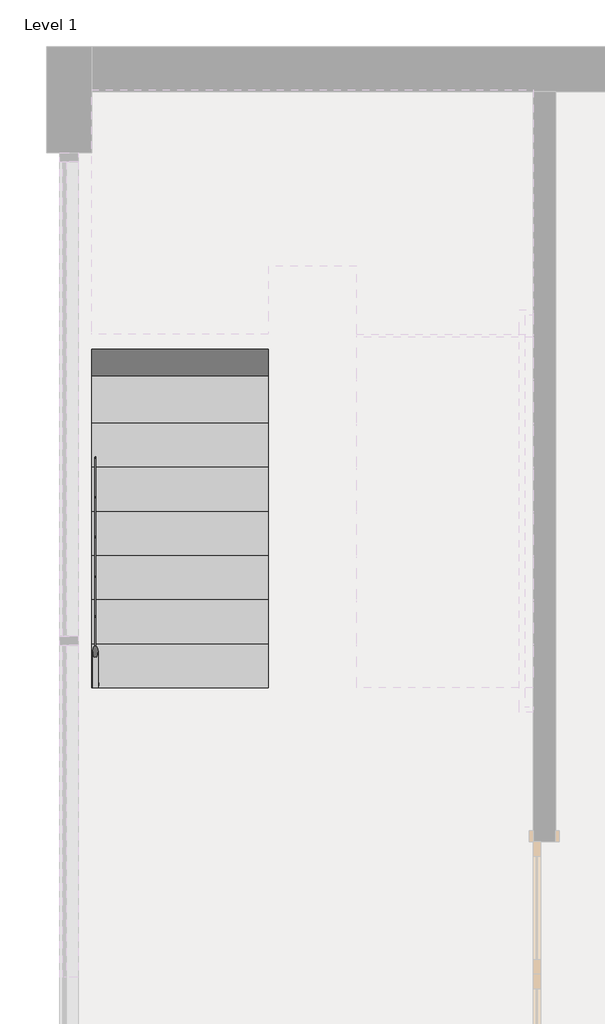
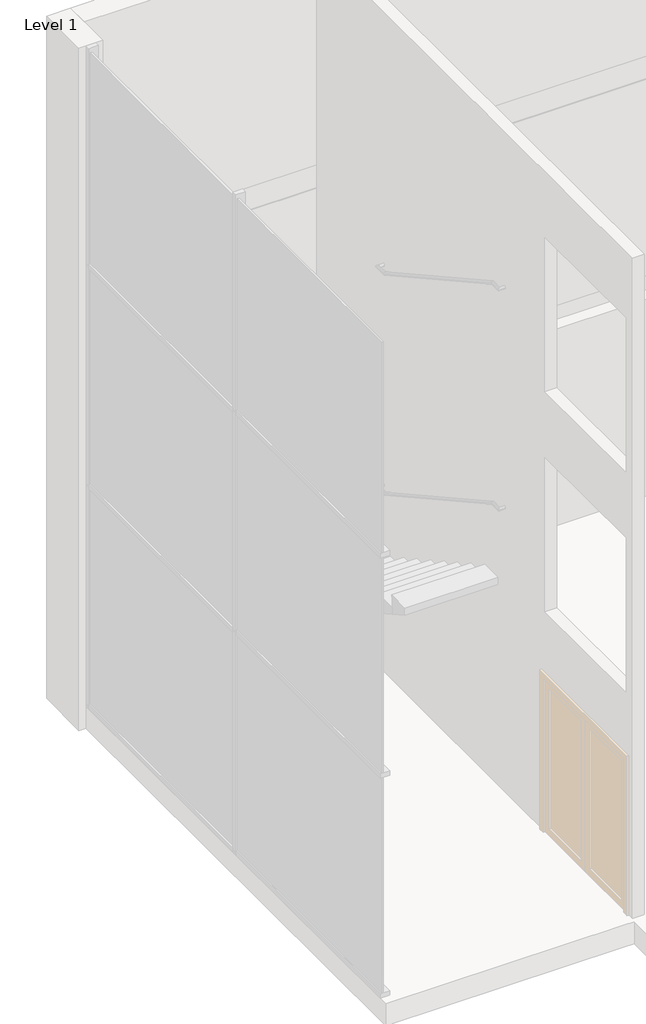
# One storey, part 4 of 7: 1 railing, 1 stair flight.
"""IFC4 building model written with IfcOpenShell, lengths in millimetres."""

from ifc_helpers import new_model, si_unit, point, frame, frame_2d, origin, place, context, project, spatial, circle_curve, ellipse_curve, trimmed, segment, composite_curve, outline, extrude, faceted_brep, element, save
from ifc_brep_helpers import plane_surface, cylinder_surface, advanced_brep

model = new_model("IFC4")

# Units and contexts
model_context = context("Model", 3, world=origin())
ifc_project = project(units=[si_unit("LENGTHUNIT", "METRE", prefix="MILLI")], contexts=[model_context])

# Site, building, storey
site = spatial("IfcSite", under=ifc_project)
building = spatial("IfcBuilding", under=site)
storey = spatial("IfcBuildingStorey", under=building, Name="Level 1", Elevation=0.0)

# Railing
placement = place(None, origin())
element("IfcRailing", 1, ObjectType="Handrail -Wire", at=placement, inside=storey, context=model_context, shape_type="SolidModel", body=[
    advanced_brep(
    [(-21332.467382, 11483.2233604, 4109.9409165), (-21370.567382, 11483.2233604, 4109.9409165), (-21332.467382, 13926.5597113, 5467.3500003), (-21370.567382, 13926.5597113, 5467.3500003), (-21332.467382, 15610.7233604, 5467.3500003), (-21370.567382, 15610.7233604, 5467.3500003)],
    [
        (0, 1, ellipse_curve(frame((-21351.517382, 11483.2233604, 4109.9409165), z_axis=(0.0, -1.0, 0.0), x_axis=(0.0, 0.0, -1.0)), 21.7924171, 19.05)),
        (1, 0, ellipse_curve(frame((-21351.517382, 11483.2233604, 4109.9409165), z_axis=(0.0, -1.0, 0.0), x_axis=(0.0, 0.0, -1.0)), 21.7924171, 19.05)),
        (0, 2),
        (2, 3, ellipse_curve(frame((-21351.517382, 13926.5597113, 5467.3500003), z_axis=(0.0, -0.9680282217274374, -0.25084130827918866), x_axis=(0.0, 0.2508413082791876, -0.9680282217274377)), 19.6791783, 19.05)),
        (3, 1),
        (3, 2, ellipse_curve(frame((-21351.517382, 13926.5597113, 5467.3500003), z_axis=(0.0, -0.9680282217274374, -0.25084130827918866), x_axis=(0.0, 0.2508413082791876, -0.9680282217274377)), 19.6791783, 19.05)),
        (4, 5, circle_curve(frame((-21351.517382, 15610.7233604, 5467.3500003), z_axis=(0.0, 1.0, 0.0), x_axis=(-1.0, 0.0, 0.0)), 19.05)),
        (5, 4, circle_curve(frame((-21351.517382, 15610.7233604, 5467.3500003), z_axis=(0.0, 1.0, 0.0), x_axis=(-1.0, 0.0, 0.0)), 19.05)),
        (2, 4),
        (5, 3),
    ],
    [
        plane_surface(frame((-21351.517382, 11483.2233604, 4131.7333336), z_axis=(0.0, -1.0, 0.0), x_axis=(0.0, 0.0, 1.0))),
        cylinder_surface(frame((-21351.517382, 11492.4748583, 4115.0806375), z_axis=(0.0, -0.8741572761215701, -0.485642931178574), x_axis=(-1.0, 0.0, 0.0)), 19.05),
        plane_surface(frame((-21351.517382, 15610.7233604, 5486.4000003), z_axis=(0.0, 1.0, 0.0), x_axis=(0.0, 0.0, 1.0))),
        cylinder_surface(frame((-21351.517382, 13921.6233604, 5467.3500003), z_axis=(0.0, -1.0, 0.0), x_axis=(-1.0, 0.0, 0.0)), 19.05),
    ],
    [
        (0, [[1, 2]]),
        (1, [[-1, 3, 4, 5]]),
        (1, [[-2, -5, 6, -3]]),
        (2, [[7, 8]]),
        (3, [[-4, 9, -8, 10]]),
        (3, [[-6, -10, -7, -9]]),
    ],
),
    advanced_brep(
    [(-21348.342382, 11483.2233604, 3975.7012641), (-21354.692382, 11483.2233604, 3975.7012641), (-21348.342382, 13921.6233604, 5330.3679308), (-21354.692382, 13921.6233604, 5330.3679308)],
    [
        (0, 1, ellipse_curve(frame((-21351.517382, 11483.2233604, 3975.7012641), z_axis=(0.0, -1.0, 0.0), x_axis=(0.0, 0.0, -1.0)), 3.6320695, 3.175)),
        (1, 0, ellipse_curve(frame((-21351.517382, 11483.2233604, 3975.7012641), z_axis=(0.0, -1.0, 0.0), x_axis=(0.0, 0.0, -1.0)), 3.6320695, 3.175)),
        (2, 3, ellipse_curve(frame((-21351.517382, 13921.6233604, 5330.3679308), z_axis=(0.0, 1.0, 0.0), x_axis=(0.0, 0.0, -1.0)), 3.6320695, 3.175)),
        (3, 2, ellipse_curve(frame((-21351.517382, 13921.6233604, 5330.3679308), z_axis=(0.0, 1.0, 0.0), x_axis=(0.0, 0.0, -1.0)), 3.6320695, 3.175)),
        (0, 2),
        (3, 1),
    ],
    [
        plane_surface(frame((-21351.517382, 11483.2233604, 3979.3333336), z_axis=(0.0, -1.0, 0.0), x_axis=(0.0, 0.0, 1.0))),
        plane_surface(frame((-21351.517382, 13921.6233604, 5334.0000003), z_axis=(0.0, 1.0, 0.0), x_axis=(0.0, 0.0, 1.0))),
        cylinder_surface(frame((-21351.517382, 11484.7652768, 3976.5578843), z_axis=(0.0, -0.8741572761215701, -0.485642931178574), x_axis=(-1.0, 0.0, 0.0)), 3.175),
    ],
    [
        (0, [[1, 2]]),
        (1, [[3, 4]]),
        (2, [[-1, 5, -4, 6]]),
        (2, [[-2, -6, -3, -5]]),
    ],
),
    advanced_brep(
    [(-21348.342382, 13921.6233604, 5330.8250003), (-21354.692382, 13921.6233604, 5330.8250003), (-21348.342382, 15610.7233604, 5330.8250003), (-21354.692382, 15610.7233604, 5330.8250003)],
    [
        (0, 1, circle_curve(frame((-21351.517382, 13921.6233604, 5330.8250003), z_axis=(0.0, -1.0, 0.0), x_axis=(-1.0, 0.0, 0.0)), 3.175)),
        (1, 0, circle_curve(frame((-21351.517382, 13921.6233604, 5330.8250003), z_axis=(0.0, -1.0, 0.0), x_axis=(-1.0, 0.0, 0.0)), 3.175)),
        (2, 3, circle_curve(frame((-21351.517382, 15610.7233604, 5330.8250003), z_axis=(0.0, 1.0, 0.0), x_axis=(-1.0, 0.0, 0.0)), 3.175)),
        (3, 2, circle_curve(frame((-21351.517382, 15610.7233604, 5330.8250003), z_axis=(0.0, 1.0, 0.0), x_axis=(-1.0, 0.0, 0.0)), 3.175)),
        (0, 2),
        (3, 1),
    ],
    [
        plane_surface(frame((-21351.517382, 13921.6233604, 5334.0000003), z_axis=(0.0, -1.0, 0.0), x_axis=(0.0, 0.0, 1.0))),
        plane_surface(frame((-21351.517382, 15610.7233604, 5334.0000003), z_axis=(0.0, 1.0, 0.0), x_axis=(0.0, 0.0, 1.0))),
        cylinder_surface(frame((-21351.517382, 13921.6233604, 5330.8250003), z_axis=(0.0, -1.0, 0.0), x_axis=(-1.0, 0.0, 0.0)), 3.175),
    ],
    [
        (0, [[1, 2]]),
        (1, [[3, 4]]),
        (2, [[-1, 5, -4, 6]]),
        (2, [[-2, -6, -3, -5]]),
    ],
),
    advanced_brep(
    [(-21348.342382, 11483.2233604, 3823.3012641), (-21354.692382, 11483.2233604, 3823.3012641), (-21348.342382, 13921.6233604, 5177.9679308), (-21354.692382, 13921.6233604, 5177.9679308)],
    [
        (0, 1, ellipse_curve(frame((-21351.517382, 11483.2233604, 3823.3012641), z_axis=(0.0, -1.0, 0.0), x_axis=(0.0, 0.0, -1.0)), 3.6320695, 3.175)),
        (1, 0, ellipse_curve(frame((-21351.517382, 11483.2233604, 3823.3012641), z_axis=(0.0, -1.0, 0.0), x_axis=(0.0, 0.0, -1.0)), 3.6320695, 3.175)),
        (2, 3, ellipse_curve(frame((-21351.517382, 13921.6233604, 5177.9679308), z_axis=(0.0, 1.0, 0.0), x_axis=(0.0, 0.0, -1.0)), 3.6320695, 3.175)),
        (3, 2, ellipse_curve(frame((-21351.517382, 13921.6233604, 5177.9679308), z_axis=(0.0, 1.0, 0.0), x_axis=(0.0, 0.0, -1.0)), 3.6320695, 3.175)),
        (0, 2),
        (3, 1),
    ],
    [
        plane_surface(frame((-21351.517382, 11483.2233604, 3826.9333336), z_axis=(0.0, -1.0, 0.0), x_axis=(0.0, 0.0, 1.0))),
        plane_surface(frame((-21351.517382, 13921.6233604, 5181.6000003), z_axis=(0.0, 1.0, 0.0), x_axis=(0.0, 0.0, 1.0))),
        cylinder_surface(frame((-21351.517382, 11484.7652768, 3824.1578843), z_axis=(0.0, -0.8741572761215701, -0.485642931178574), x_axis=(-1.0, 0.0, 0.0)), 3.175),
    ],
    [
        (0, [[1, 2]]),
        (1, [[3, 4]]),
        (2, [[-1, 5, -4, 6]]),
        (2, [[-2, -6, -3, -5]]),
    ],
),
    advanced_brep(
    [(-21348.342382, 13921.6233604, 5178.4250003), (-21354.692382, 13921.6233604, 5178.4250003), (-21348.342382, 15610.7233604, 5178.4250003), (-21354.692382, 15610.7233604, 5178.4250003)],
    [
        (0, 1, circle_curve(frame((-21351.517382, 13921.6233604, 5178.4250003), z_axis=(0.0, -1.0, 0.0), x_axis=(-1.0, 0.0, 0.0)), 3.175)),
        (1, 0, circle_curve(frame((-21351.517382, 13921.6233604, 5178.4250003), z_axis=(0.0, -1.0, 0.0), x_axis=(-1.0, 0.0, 0.0)), 3.175)),
        (2, 3, circle_curve(frame((-21351.517382, 15610.7233604, 5178.4250003), z_axis=(0.0, 1.0, 0.0), x_axis=(-1.0, 0.0, 0.0)), 3.175)),
        (3, 2, circle_curve(frame((-21351.517382, 15610.7233604, 5178.4250003), z_axis=(0.0, 1.0, 0.0), x_axis=(-1.0, 0.0, 0.0)), 3.175)),
        (0, 2),
        (3, 1),
    ],
    [
        plane_surface(frame((-21351.517382, 13921.6233604, 5181.6000003), z_axis=(0.0, -1.0, 0.0), x_axis=(0.0, 0.0, 1.0))),
        plane_surface(frame((-21351.517382, 15610.7233604, 5181.6000003), z_axis=(0.0, 1.0, 0.0), x_axis=(0.0, 0.0, 1.0))),
        cylinder_surface(frame((-21351.517382, 13921.6233604, 5178.4250003), z_axis=(0.0, -1.0, 0.0), x_axis=(-1.0, 0.0, 0.0)), 3.175),
    ],
    [
        (0, [[1, 2]]),
        (1, [[3, 4]]),
        (2, [[-1, 5, -4, 6]]),
        (2, [[-2, -6, -3, -5]]),
    ],
),
    advanced_brep(
    [(-21348.342382, 11483.2233604, 3670.9012641), (-21354.692382, 11483.2233604, 3670.9012641), (-21348.342382, 13921.6233604, 5025.5679308), (-21354.692382, 13921.6233604, 5025.5679308)],
    [
        (0, 1, ellipse_curve(frame((-21351.517382, 11483.2233604, 3670.9012641), z_axis=(0.0, -1.0, 0.0), x_axis=(0.0, 0.0, -1.0)), 3.6320695, 3.175)),
        (1, 0, ellipse_curve(frame((-21351.517382, 11483.2233604, 3670.9012641), z_axis=(0.0, -1.0, 0.0), x_axis=(0.0, 0.0, -1.0)), 3.6320695, 3.175)),
        (2, 3, ellipse_curve(frame((-21351.517382, 13921.6233604, 5025.5679308), z_axis=(0.0, 1.0, 0.0), x_axis=(0.0, 0.0, -1.0)), 3.6320695, 3.175)),
        (3, 2, ellipse_curve(frame((-21351.517382, 13921.6233604, 5025.5679308), z_axis=(0.0, 1.0, 0.0), x_axis=(0.0, 0.0, -1.0)), 3.6320695, 3.175)),
        (0, 2),
        (3, 1),
    ],
    [
        plane_surface(frame((-21351.517382, 11483.2233604, 3674.5333336), z_axis=(0.0, -1.0, 0.0), x_axis=(0.0, 0.0, 1.0))),
        plane_surface(frame((-21351.517382, 13921.6233604, 5029.2000003), z_axis=(0.0, 1.0, 0.0), x_axis=(0.0, 0.0, 1.0))),
        cylinder_surface(frame((-21351.517382, 11484.7652768, 3671.7578843), z_axis=(0.0, -0.8741572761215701, -0.485642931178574), x_axis=(-1.0, 0.0, 0.0)), 3.175),
    ],
    [
        (0, [[1, 2]]),
        (1, [[3, 4]]),
        (2, [[-1, 5, -4, 6]]),
        (2, [[-2, -6, -3, -5]]),
    ],
),
    advanced_brep(
    [(-21348.342382, 13921.6233604, 5026.0250003), (-21354.692382, 13921.6233604, 5026.0250003), (-21348.342382, 15610.7233604, 5026.0250003), (-21354.692382, 15610.7233604, 5026.0250003)],
    [
        (0, 1, circle_curve(frame((-21351.517382, 13921.6233604, 5026.0250003), z_axis=(0.0, -1.0, 0.0), x_axis=(-1.0, 0.0, 0.0)), 3.175)),
        (1, 0, circle_curve(frame((-21351.517382, 13921.6233604, 5026.0250003), z_axis=(0.0, -1.0, 0.0), x_axis=(-1.0, 0.0, 0.0)), 3.175)),
        (2, 3, circle_curve(frame((-21351.517382, 15610.7233604, 5026.0250003), z_axis=(0.0, 1.0, 0.0), x_axis=(-1.0, 0.0, 0.0)), 3.175)),
        (3, 2, circle_curve(frame((-21351.517382, 15610.7233604, 5026.0250003), z_axis=(0.0, 1.0, 0.0), x_axis=(-1.0, 0.0, 0.0)), 3.175)),
        (0, 2),
        (3, 1),
    ],
    [
        plane_surface(frame((-21351.517382, 13921.6233604, 5029.2000003), z_axis=(0.0, -1.0, 0.0), x_axis=(0.0, 0.0, 1.0))),
        plane_surface(frame((-21351.517382, 15610.7233604, 5029.2000003), z_axis=(0.0, 1.0, 0.0), x_axis=(0.0, 0.0, 1.0))),
        cylinder_surface(frame((-21351.517382, 13921.6233604, 5026.0250003), z_axis=(0.0, -1.0, 0.0), x_axis=(-1.0, 0.0, 0.0)), 3.175),
    ],
    [
        (0, [[1, 2]]),
        (1, [[3, 4]]),
        (2, [[-1, 5, -4, 6]]),
        (2, [[-2, -6, -3, -5]]),
    ],
),
    advanced_brep(
    [(-21348.342382, 11483.2233604, 3518.5012641), (-21354.692382, 11483.2233604, 3518.5012641), (-21348.342382, 13921.6233604, 4873.1679308), (-21354.692382, 13921.6233604, 4873.1679308)],
    [
        (0, 1, ellipse_curve(frame((-21351.517382, 11483.2233604, 3518.5012641), z_axis=(0.0, -1.0, 0.0), x_axis=(0.0, 0.0, -1.0)), 3.6320695, 3.175)),
        (1, 0, ellipse_curve(frame((-21351.517382, 11483.2233604, 3518.5012641), z_axis=(0.0, -1.0, 0.0), x_axis=(0.0, 0.0, -1.0)), 3.6320695, 3.175)),
        (2, 3, ellipse_curve(frame((-21351.517382, 13921.6233604, 4873.1679308), z_axis=(0.0, 1.0, 0.0), x_axis=(0.0, 0.0, -1.0)), 3.6320695, 3.175)),
        (3, 2, ellipse_curve(frame((-21351.517382, 13921.6233604, 4873.1679308), z_axis=(0.0, 1.0, 0.0), x_axis=(0.0, 0.0, -1.0)), 3.6320695, 3.175)),
        (0, 2),
        (3, 1),
    ],
    [
        plane_surface(frame((-21351.517382, 11483.2233604, 3522.1333336), z_axis=(0.0, -1.0, 0.0), x_axis=(0.0, 0.0, 1.0))),
        plane_surface(frame((-21351.517382, 13921.6233604, 4876.8000003), z_axis=(0.0, 1.0, 0.0), x_axis=(0.0, 0.0, 1.0))),
        cylinder_surface(frame((-21351.517382, 11484.7652768, 3519.3578843), z_axis=(0.0, -0.8741572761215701, -0.485642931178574), x_axis=(-1.0, 0.0, 0.0)), 3.175),
    ],
    [
        (0, [[1, 2]]),
        (1, [[3, 4]]),
        (2, [[-1, 5, -4, 6]]),
        (2, [[-2, -6, -3, -5]]),
    ],
),
    advanced_brep(
    [(-21348.342382, 13921.6233604, 4873.6250003), (-21354.692382, 13921.6233604, 4873.6250003), (-21348.342382, 15610.7233604, 4873.6250003), (-21354.692382, 15610.7233604, 4873.6250003)],
    [
        (0, 1, circle_curve(frame((-21351.517382, 13921.6233604, 4873.6250003), z_axis=(0.0, -1.0, 0.0), x_axis=(-1.0, 0.0, 0.0)), 3.175)),
        (1, 0, circle_curve(frame((-21351.517382, 13921.6233604, 4873.6250003), z_axis=(0.0, -1.0, 0.0), x_axis=(-1.0, 0.0, 0.0)), 3.175)),
        (2, 3, circle_curve(frame((-21351.517382, 15610.7233604, 4873.6250003), z_axis=(0.0, 1.0, 0.0), x_axis=(-1.0, 0.0, 0.0)), 3.175)),
        (3, 2, circle_curve(frame((-21351.517382, 15610.7233604, 4873.6250003), z_axis=(0.0, 1.0, 0.0), x_axis=(-1.0, 0.0, 0.0)), 3.175)),
        (0, 2),
        (3, 1),
    ],
    [
        plane_surface(frame((-21351.517382, 13921.6233604, 4876.8000003), z_axis=(0.0, -1.0, 0.0), x_axis=(0.0, 0.0, 1.0))),
        plane_surface(frame((-21351.517382, 15610.7233604, 4876.8000003), z_axis=(0.0, 1.0, 0.0), x_axis=(0.0, 0.0, 1.0))),
        cylinder_surface(frame((-21351.517382, 13921.6233604, 4873.6250003), z_axis=(0.0, -1.0, 0.0), x_axis=(-1.0, 0.0, 0.0)), 3.175),
    ],
    [
        (0, [[1, 2]]),
        (1, [[3, 4]]),
        (2, [[-1, 5, -4, 6]]),
        (2, [[-2, -6, -3, -5]]),
    ],
),
    advanced_brep(
    [(-21348.342382, 11483.2233604, 3366.1012641), (-21354.692382, 11483.2233604, 3366.1012641), (-21348.342382, 13921.6233604, 4720.7679308), (-21354.692382, 13921.6233604, 4720.7679308)],
    [
        (0, 1, ellipse_curve(frame((-21351.517382, 11483.2233604, 3366.1012641), z_axis=(0.0, -1.0, 0.0), x_axis=(0.0, 0.0, -1.0)), 3.6320695, 3.175)),
        (1, 0, ellipse_curve(frame((-21351.517382, 11483.2233604, 3366.1012641), z_axis=(0.0, -1.0, 0.0), x_axis=(0.0, 0.0, -1.0)), 3.6320695, 3.175)),
        (2, 3, ellipse_curve(frame((-21351.517382, 13921.6233604, 4720.7679308), z_axis=(0.0, 1.0, 0.0), x_axis=(0.0, 0.0, -1.0)), 3.6320695, 3.175)),
        (3, 2, ellipse_curve(frame((-21351.517382, 13921.6233604, 4720.7679308), z_axis=(0.0, 1.0, 0.0), x_axis=(0.0, 0.0, -1.0)), 3.6320695, 3.175)),
        (0, 2),
        (3, 1),
    ],
    [
        plane_surface(frame((-21351.517382, 11483.2233604, 3369.7333336), z_axis=(0.0, -1.0, 0.0), x_axis=(0.0, 0.0, 1.0))),
        plane_surface(frame((-21351.517382, 13921.6233604, 4724.4000003), z_axis=(0.0, 1.0, 0.0), x_axis=(0.0, 0.0, 1.0))),
        cylinder_surface(frame((-21351.517382, 11484.7652768, 3366.9578843), z_axis=(0.0, -0.8741572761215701, -0.485642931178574), x_axis=(-1.0, 0.0, 0.0)), 3.175),
    ],
    [
        (0, [[1, 2]]),
        (1, [[3, 4]]),
        (2, [[-1, 5, -4, 6]]),
        (2, [[-2, -6, -3, -5]]),
    ],
),
    advanced_brep(
    [(-21348.342382, 13921.6233604, 4721.2250003), (-21354.692382, 13921.6233604, 4721.2250003), (-21348.342382, 15610.7233604, 4721.2250003), (-21354.692382, 15610.7233604, 4721.2250003)],
    [
        (0, 1, circle_curve(frame((-21351.517382, 13921.6233604, 4721.2250003), z_axis=(0.0, -1.0, 0.0), x_axis=(-1.0, 0.0, 0.0)), 3.175)),
        (1, 0, circle_curve(frame((-21351.517382, 13921.6233604, 4721.2250003), z_axis=(0.0, -1.0, 0.0), x_axis=(-1.0, 0.0, 0.0)), 3.175)),
        (2, 3, circle_curve(frame((-21351.517382, 15610.7233604, 4721.2250003), z_axis=(0.0, 1.0, 0.0), x_axis=(-1.0, 0.0, 0.0)), 3.175)),
        (3, 2, circle_curve(frame((-21351.517382, 15610.7233604, 4721.2250003), z_axis=(0.0, 1.0, 0.0), x_axis=(-1.0, 0.0, 0.0)), 3.175)),
        (0, 2),
        (3, 1),
    ],
    [
        plane_surface(frame((-21351.517382, 13921.6233604, 4724.4000003), z_axis=(0.0, -1.0, 0.0), x_axis=(0.0, 0.0, 1.0))),
        plane_surface(frame((-21351.517382, 15610.7233604, 4724.4000003), z_axis=(0.0, 1.0, 0.0), x_axis=(0.0, 0.0, 1.0))),
        cylinder_surface(frame((-21351.517382, 13921.6233604, 4721.2250003), z_axis=(0.0, -1.0, 0.0), x_axis=(-1.0, 0.0, 0.0)), 3.175),
    ],
    [
        (0, [[1, 2]]),
        (1, [[3, 4]]),
        (2, [[-1, 5, -4, 6]]),
        (2, [[-2, -6, -3, -5]]),
    ],
),
    advanced_brep(
    [(-21376.917382, 13921.6233604, 5442.815166), (-21326.117382, 13921.6233604, 5442.815166), (-21326.117382, 13921.6233604, 4572.0000003), (-21376.917382, 13921.6233604, 4572.0000003)],
    [
        (0, 1, ellipse_curve(frame((-21351.517382, 13921.6233604, 5442.815166), z_axis=(0.0, 0.4856429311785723, -0.874157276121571), x_axis=(0.0, 0.874157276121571, 0.4856429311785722)), 29.0565562, 25.4)),
        (1, 2),
        (2, 3, circle_curve(frame((-21351.517382, 13921.6233604, 4572.0000003), z_axis=(0.0, 0.0, 1.0), x_axis=(1.0, 0.0, 0.0)), 25.4)),
        (3, 0),
        (3, 2, circle_curve(frame((-21351.517382, 13921.6233604, 4572.0000003), z_axis=(0.0, 0.0, 1.0), x_axis=(1.0, 0.0, 0.0)), 25.4)),
        (1, 0, ellipse_curve(frame((-21351.517382, 13921.6233604, 5442.815166), z_axis=(0.0, 0.4856429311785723, -0.874157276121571), x_axis=(0.0, 0.874157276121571, 0.4856429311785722)), 29.0565562, 25.4)),
    ],
    [
        cylinder_surface(frame((-21351.517382, 13921.6233604, 4343.4000003), z_axis=(0.0, 0.0, 1.0), x_axis=(1.0, 0.0, 0.0)), 25.4),
        plane_surface(frame((-21300.717382, 13972.4233604, 5471.0373883), z_axis=(0.0, -0.4856429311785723, 0.874157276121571), x_axis=(-1.0, 0.0, 0.0))),
        plane_surface(frame((-21300.717382, 13870.8233604, 4572.0000003), z_axis=(0.0, 0.0, -1.0), x_axis=(-1.0, 0.0, 0.0))),
    ],
    [
        (0, [[1, 2, 3, 4]]),
        (0, [[5, -2, 6, -4]]),
        (1, [[-6, -1]]),
        (2, [[-5, -3]]),
    ],
),
    extrude(outline(composite_curve([segment(trimmed(circle_curve(frame_2d((-21351.517382, 15585.3233604)), 25.4), [point((-21326.117382, 15585.3233604))], [point((-21376.917382, 15585.3233604))], False, "CARTESIAN"), True, "CONTINUOUS"), segment(trimmed(circle_curve(frame_2d((-21351.517382, 15585.3233604)), 25.4), [point((-21376.917382, 15585.3233604))], [point((-21326.117382, 15585.3233604))], False, "CARTESIAN"), True, "CONTINUOUS")], self_intersect=False)), frame((0.0, 0.0, 4572.0000003), z_axis=(0.0, 0.0, 1.0), x_axis=(1.0, 0.0, 0.0)), (0.0, 0.0, 1.0), 876.3),
    advanced_brep(
    [(-21376.917382, 11508.6233604, 4102.2596105), (-21326.117382, 11508.6233604, 4102.2596105), (-21326.117382, 11508.6233604, 3217.3333336), (-21376.917382, 11508.6233604, 3217.3333336)],
    [
        (0, 1, ellipse_curve(frame((-21351.517382, 11508.6233604, 4102.2596105), z_axis=(0.0, 0.4856429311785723, -0.874157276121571), x_axis=(0.0, 0.874157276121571, 0.4856429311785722)), 29.0565562, 25.4)),
        (1, 2),
        (2, 3, circle_curve(frame((-21351.517382, 11508.6233604, 3217.3333336), z_axis=(0.0, 0.0, 1.0), x_axis=(1.0, 0.0, 0.0)), 25.4)),
        (3, 0),
        (3, 2, circle_curve(frame((-21351.517382, 11508.6233604, 3217.3333336), z_axis=(0.0, 0.0, 1.0), x_axis=(1.0, 0.0, 0.0)), 25.4)),
        (1, 0, ellipse_curve(frame((-21351.517382, 11508.6233604, 4102.2596105), z_axis=(0.0, 0.4856429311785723, -0.874157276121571), x_axis=(0.0, 0.874157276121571, 0.4856429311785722)), 29.0565562, 25.4)),
    ],
    [
        cylinder_surface(frame((-21351.517382, 11508.6233604, 2988.7333336), z_axis=(0.0, 0.0, 1.0), x_axis=(1.0, 0.0, 0.0)), 25.4),
        plane_surface(frame((-21300.717382, 11559.4233604, 4130.4818327), z_axis=(0.0, -0.4856429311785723, 0.874157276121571), x_axis=(-1.0, 0.0, 0.0))),
        plane_surface(frame((-21300.717382, 11457.8233604, 3217.3333336), z_axis=(0.0, 0.0, -1.0), x_axis=(-1.0, 0.0, 0.0))),
    ],
    [
        (0, [[1, 2, 3, 4]]),
        (0, [[5, -2, 6, -4]]),
        (1, [[-6, -1]]),
        (2, [[-5, -3]]),
    ],
),
    advanced_brep(
    [(-21332.467382, 11483.2233604, 1061.9409162), (-21370.567382, 11483.2233604, 1061.9409162), (-21332.467382, 13926.5597113, 2419.35), (-21370.567382, 13926.5597113, 2419.35), (-21332.467382, 15610.7233604, 2419.35), (-21370.567382, 15610.7233604, 2419.35)],
    [
        (0, 1, ellipse_curve(frame((-21351.517382, 11483.2233604, 1061.9409162), z_axis=(0.0, -1.0, 0.0), x_axis=(0.0, 0.0, -1.0)), 21.7924171, 19.05)),
        (1, 0, ellipse_curve(frame((-21351.517382, 11483.2233604, 1061.9409162), z_axis=(0.0, -1.0, 0.0), x_axis=(0.0, 0.0, -1.0)), 21.7924171, 19.05)),
        (0, 2),
        (2, 3, ellipse_curve(frame((-21351.517382, 13926.5597113, 2419.35), z_axis=(0.0, -0.9680282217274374, -0.25084130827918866), x_axis=(0.0, 0.2508413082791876, -0.9680282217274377)), 19.6791783, 19.05)),
        (3, 1),
        (3, 2, ellipse_curve(frame((-21351.517382, 13926.5597113, 2419.35), z_axis=(0.0, -0.9680282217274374, -0.25084130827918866), x_axis=(0.0, 0.2508413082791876, -0.9680282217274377)), 19.6791783, 19.05)),
        (4, 5, circle_curve(frame((-21351.517382, 15610.7233604, 2419.35), z_axis=(0.0, 1.0, 0.0), x_axis=(-1.0, 0.0, 0.0)), 19.05)),
        (5, 4, circle_curve(frame((-21351.517382, 15610.7233604, 2419.35), z_axis=(0.0, 1.0, 0.0), x_axis=(-1.0, 0.0, 0.0)), 19.05)),
        (2, 4),
        (5, 3),
    ],
    [
        plane_surface(frame((-21351.517382, 11483.2233604, 1083.7333333), z_axis=(0.0, -1.0, 0.0), x_axis=(0.0, 0.0, 1.0))),
        cylinder_surface(frame((-21351.517382, 11492.4748583, 1067.0806372), z_axis=(0.0, -0.8741572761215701, -0.485642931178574), x_axis=(-1.0, 0.0, 0.0)), 19.05),
        plane_surface(frame((-21351.517382, 15610.7233604, 2438.4), z_axis=(0.0, 1.0, 0.0), x_axis=(0.0, 0.0, 1.0))),
        cylinder_surface(frame((-21351.517382, 13921.6233604, 2419.35), z_axis=(0.0, -1.0, 0.0), x_axis=(-1.0, 0.0, 0.0)), 19.05),
    ],
    [
        (0, [[1, 2]]),
        (1, [[-1, 3, 4, 5]]),
        (1, [[-2, -5, 6, -3]]),
        (2, [[7, 8]]),
        (3, [[-4, 9, -8, 10]]),
        (3, [[-6, -10, -7, -9]]),
    ],
),
    advanced_brep(
    [(-21348.342382, 11483.2233604, 927.7012638), (-21354.692382, 11483.2233604, 927.7012638), (-21348.342382, 13921.6233604, 2282.3679305), (-21354.692382, 13921.6233604, 2282.3679305)],
    [
        (0, 1, ellipse_curve(frame((-21351.517382, 11483.2233604, 927.7012638), z_axis=(0.0, -1.0, 0.0), x_axis=(0.0, 0.0, -1.0)), 3.6320695, 3.175)),
        (1, 0, ellipse_curve(frame((-21351.517382, 11483.2233604, 927.7012638), z_axis=(0.0, -1.0, 0.0), x_axis=(0.0, 0.0, -1.0)), 3.6320695, 3.175)),
        (2, 3, ellipse_curve(frame((-21351.517382, 13921.6233604, 2282.3679305), z_axis=(0.0, 1.0, 0.0), x_axis=(0.0, 0.0, -1.0)), 3.6320695, 3.175)),
        (3, 2, ellipse_curve(frame((-21351.517382, 13921.6233604, 2282.3679305), z_axis=(0.0, 1.0, 0.0), x_axis=(0.0, 0.0, -1.0)), 3.6320695, 3.175)),
        (0, 2),
        (3, 1),
    ],
    [
        plane_surface(frame((-21351.517382, 11483.2233604, 931.3333333), z_axis=(0.0, -1.0, 0.0), x_axis=(0.0, 0.0, 1.0))),
        plane_surface(frame((-21351.517382, 13921.6233604, 2286.0), z_axis=(0.0, 1.0, 0.0), x_axis=(0.0, 0.0, 1.0))),
        cylinder_surface(frame((-21351.517382, 11484.7652768, 928.557884), z_axis=(0.0, -0.8741572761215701, -0.485642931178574), x_axis=(-1.0, 0.0, 0.0)), 3.175),
    ],
    [
        (0, [[1, 2]]),
        (1, [[3, 4]]),
        (2, [[-1, 5, -4, 6]]),
        (2, [[-2, -6, -3, -5]]),
    ],
),
    advanced_brep(
    [(-21348.342382, 13921.6233604, 2282.825), (-21354.692382, 13921.6233604, 2282.825), (-21348.342382, 15610.7233604, 2282.825), (-21354.692382, 15610.7233604, 2282.825)],
    [
        (0, 1, circle_curve(frame((-21351.517382, 13921.6233604, 2282.825), z_axis=(0.0, -1.0, 0.0), x_axis=(-1.0, 0.0, 0.0)), 3.175)),
        (1, 0, circle_curve(frame((-21351.517382, 13921.6233604, 2282.825), z_axis=(0.0, -1.0, 0.0), x_axis=(-1.0, 0.0, 0.0)), 3.175)),
        (2, 3, circle_curve(frame((-21351.517382, 15610.7233604, 2282.825), z_axis=(0.0, 1.0, 0.0), x_axis=(-1.0, 0.0, 0.0)), 3.175)),
        (3, 2, circle_curve(frame((-21351.517382, 15610.7233604, 2282.825), z_axis=(0.0, 1.0, 0.0), x_axis=(-1.0, 0.0, 0.0)), 3.175)),
        (0, 2),
        (3, 1),
    ],
    [
        plane_surface(frame((-21351.517382, 13921.6233604, 2286.0), z_axis=(0.0, -1.0, 0.0), x_axis=(0.0, 0.0, 1.0))),
        plane_surface(frame((-21351.517382, 15610.7233604, 2286.0), z_axis=(0.0, 1.0, 0.0), x_axis=(0.0, 0.0, 1.0))),
        cylinder_surface(frame((-21351.517382, 13921.6233604, 2282.825), z_axis=(0.0, -1.0, 0.0), x_axis=(-1.0, 0.0, 0.0)), 3.175),
    ],
    [
        (0, [[1, 2]]),
        (1, [[3, 4]]),
        (2, [[-1, 5, -4, 6]]),
        (2, [[-2, -6, -3, -5]]),
    ],
),
    advanced_brep(
    [(-21348.342382, 11483.2233604, 775.3012638), (-21354.692382, 11483.2233604, 775.3012638), (-21348.342382, 13921.6233604, 2129.9679305), (-21354.692382, 13921.6233604, 2129.9679305)],
    [
        (0, 1, ellipse_curve(frame((-21351.517382, 11483.2233604, 775.3012638), z_axis=(0.0, -1.0, 0.0), x_axis=(0.0, 0.0, -1.0)), 3.6320695, 3.175)),
        (1, 0, ellipse_curve(frame((-21351.517382, 11483.2233604, 775.3012638), z_axis=(0.0, -1.0, 0.0), x_axis=(0.0, 0.0, -1.0)), 3.6320695, 3.175)),
        (2, 3, ellipse_curve(frame((-21351.517382, 13921.6233604, 2129.9679305), z_axis=(0.0, 1.0, 0.0), x_axis=(0.0, 0.0, -1.0)), 3.6320695, 3.175)),
        (3, 2, ellipse_curve(frame((-21351.517382, 13921.6233604, 2129.9679305), z_axis=(0.0, 1.0, 0.0), x_axis=(0.0, 0.0, -1.0)), 3.6320695, 3.175)),
        (0, 2),
        (3, 1),
    ],
    [
        plane_surface(frame((-21351.517382, 11483.2233604, 778.9333333), z_axis=(0.0, -1.0, 0.0), x_axis=(0.0, 0.0, 1.0))),
        plane_surface(frame((-21351.517382, 13921.6233604, 2133.6), z_axis=(0.0, 1.0, 0.0), x_axis=(0.0, 0.0, 1.0))),
        cylinder_surface(frame((-21351.517382, 11484.7652768, 776.157884), z_axis=(0.0, -0.8741572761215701, -0.485642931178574), x_axis=(-1.0, 0.0, 0.0)), 3.175),
    ],
    [
        (0, [[1, 2]]),
        (1, [[3, 4]]),
        (2, [[-1, 5, -4, 6]]),
        (2, [[-2, -6, -3, -5]]),
    ],
),
    advanced_brep(
    [(-21348.342382, 13921.6233604, 2130.425), (-21354.692382, 13921.6233604, 2130.425), (-21348.342382, 15610.7233604, 2130.425), (-21354.692382, 15610.7233604, 2130.425)],
    [
        (0, 1, circle_curve(frame((-21351.517382, 13921.6233604, 2130.425), z_axis=(0.0, -1.0, 0.0), x_axis=(-1.0, 0.0, 0.0)), 3.175)),
        (1, 0, circle_curve(frame((-21351.517382, 13921.6233604, 2130.425), z_axis=(0.0, -1.0, 0.0), x_axis=(-1.0, 0.0, 0.0)), 3.175)),
        (2, 3, circle_curve(frame((-21351.517382, 15610.7233604, 2130.425), z_axis=(0.0, 1.0, 0.0), x_axis=(-1.0, 0.0, 0.0)), 3.175)),
        (3, 2, circle_curve(frame((-21351.517382, 15610.7233604, 2130.425), z_axis=(0.0, 1.0, 0.0), x_axis=(-1.0, 0.0, 0.0)), 3.175)),
        (0, 2),
        (3, 1),
    ],
    [
        plane_surface(frame((-21351.517382, 13921.6233604, 2133.6), z_axis=(0.0, -1.0, 0.0), x_axis=(0.0, 0.0, 1.0))),
        plane_surface(frame((-21351.517382, 15610.7233604, 2133.6), z_axis=(0.0, 1.0, 0.0), x_axis=(0.0, 0.0, 1.0))),
        cylinder_surface(frame((-21351.517382, 13921.6233604, 2130.425), z_axis=(0.0, -1.0, 0.0), x_axis=(-1.0, 0.0, 0.0)), 3.175),
    ],
    [
        (0, [[1, 2]]),
        (1, [[3, 4]]),
        (2, [[-1, 5, -4, 6]]),
        (2, [[-2, -6, -3, -5]]),
    ],
),
    advanced_brep(
    [(-21348.342382, 11483.2233604, 622.9012638), (-21354.692382, 11483.2233604, 622.9012638), (-21348.342382, 13921.6233604, 1977.5679305), (-21354.692382, 13921.6233604, 1977.5679305)],
    [
        (0, 1, ellipse_curve(frame((-21351.517382, 11483.2233604, 622.9012638), z_axis=(0.0, -1.0, 0.0), x_axis=(0.0, 0.0, -1.0)), 3.6320695, 3.175)),
        (1, 0, ellipse_curve(frame((-21351.517382, 11483.2233604, 622.9012638), z_axis=(0.0, -1.0, 0.0), x_axis=(0.0, 0.0, -1.0)), 3.6320695, 3.175)),
        (2, 3, ellipse_curve(frame((-21351.517382, 13921.6233604, 1977.5679305), z_axis=(0.0, 1.0, 0.0), x_axis=(0.0, 0.0, -1.0)), 3.6320695, 3.175)),
        (3, 2, ellipse_curve(frame((-21351.517382, 13921.6233604, 1977.5679305), z_axis=(0.0, 1.0, 0.0), x_axis=(0.0, 0.0, -1.0)), 3.6320695, 3.175)),
        (0, 2),
        (3, 1),
    ],
    [
        plane_surface(frame((-21351.517382, 11483.2233604, 626.5333333), z_axis=(0.0, -1.0, 0.0), x_axis=(0.0, 0.0, 1.0))),
        plane_surface(frame((-21351.517382, 13921.6233604, 1981.2), z_axis=(0.0, 1.0, 0.0), x_axis=(0.0, 0.0, 1.0))),
        cylinder_surface(frame((-21351.517382, 11484.7652768, 623.757884), z_axis=(0.0, -0.8741572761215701, -0.485642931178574), x_axis=(-1.0, 0.0, 0.0)), 3.175),
    ],
    [
        (0, [[1, 2]]),
        (1, [[3, 4]]),
        (2, [[-1, 5, -4, 6]]),
        (2, [[-2, -6, -3, -5]]),
    ],
),
    advanced_brep(
    [(-21348.342382, 13921.6233604, 1978.025), (-21354.692382, 13921.6233604, 1978.025), (-21348.342382, 15610.7233604, 1978.025), (-21354.692382, 15610.7233604, 1978.025)],
    [
        (0, 1, circle_curve(frame((-21351.517382, 13921.6233604, 1978.025), z_axis=(0.0, -1.0, 0.0), x_axis=(-1.0, 0.0, 0.0)), 3.175)),
        (1, 0, circle_curve(frame((-21351.517382, 13921.6233604, 1978.025), z_axis=(0.0, -1.0, 0.0), x_axis=(-1.0, 0.0, 0.0)), 3.175)),
        (2, 3, circle_curve(frame((-21351.517382, 15610.7233604, 1978.025), z_axis=(0.0, 1.0, 0.0), x_axis=(-1.0, 0.0, 0.0)), 3.175)),
        (3, 2, circle_curve(frame((-21351.517382, 15610.7233604, 1978.025), z_axis=(0.0, 1.0, 0.0), x_axis=(-1.0, 0.0, 0.0)), 3.175)),
        (0, 2),
        (3, 1),
    ],
    [
        plane_surface(frame((-21351.517382, 13921.6233604, 1981.2), z_axis=(0.0, -1.0, 0.0), x_axis=(0.0, 0.0, 1.0))),
        plane_surface(frame((-21351.517382, 15610.7233604, 1981.2), z_axis=(0.0, 1.0, 0.0), x_axis=(0.0, 0.0, 1.0))),
        cylinder_surface(frame((-21351.517382, 13921.6233604, 1978.025), z_axis=(0.0, -1.0, 0.0), x_axis=(-1.0, 0.0, 0.0)), 3.175),
    ],
    [
        (0, [[1, 2]]),
        (1, [[3, 4]]),
        (2, [[-1, 5, -4, 6]]),
        (2, [[-2, -6, -3, -5]]),
    ],
),
    advanced_brep(
    [(-21348.342382, 11483.2233604, 470.5012638), (-21354.692382, 11483.2233604, 470.5012638), (-21348.342382, 13921.6233604, 1825.1679305), (-21354.692382, 13921.6233604, 1825.1679305)],
    [
        (0, 1, ellipse_curve(frame((-21351.517382, 11483.2233604, 470.5012638), z_axis=(0.0, -1.0, 0.0), x_axis=(0.0, 0.0, -1.0)), 3.6320695, 3.175)),
        (1, 0, ellipse_curve(frame((-21351.517382, 11483.2233604, 470.5012638), z_axis=(0.0, -1.0, 0.0), x_axis=(0.0, 0.0, -1.0)), 3.6320695, 3.175)),
        (2, 3, ellipse_curve(frame((-21351.517382, 13921.6233604, 1825.1679305), z_axis=(0.0, 1.0, 0.0), x_axis=(0.0, 0.0, -1.0)), 3.6320695, 3.175)),
        (3, 2, ellipse_curve(frame((-21351.517382, 13921.6233604, 1825.1679305), z_axis=(0.0, 1.0, 0.0), x_axis=(0.0, 0.0, -1.0)), 3.6320695, 3.175)),
        (0, 2),
        (3, 1),
    ],
    [
        plane_surface(frame((-21351.517382, 11483.2233604, 474.1333333), z_axis=(0.0, -1.0, 0.0), x_axis=(0.0, 0.0, 1.0))),
        plane_surface(frame((-21351.517382, 13921.6233604, 1828.8), z_axis=(0.0, 1.0, 0.0), x_axis=(0.0, 0.0, 1.0))),
        cylinder_surface(frame((-21351.517382, 11484.7652768, 471.357884), z_axis=(0.0, -0.8741572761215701, -0.485642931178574), x_axis=(-1.0, 0.0, 0.0)), 3.175),
    ],
    [
        (0, [[1, 2]]),
        (1, [[3, 4]]),
        (2, [[-1, 5, -4, 6]]),
        (2, [[-2, -6, -3, -5]]),
    ],
),
    advanced_brep(
    [(-21348.342382, 13921.6233604, 1825.625), (-21354.692382, 13921.6233604, 1825.625), (-21348.342382, 15610.7233604, 1825.625), (-21354.692382, 15610.7233604, 1825.625)],
    [
        (0, 1, circle_curve(frame((-21351.517382, 13921.6233604, 1825.625), z_axis=(0.0, -1.0, 0.0), x_axis=(-1.0, 0.0, 0.0)), 3.175)),
        (1, 0, circle_curve(frame((-21351.517382, 13921.6233604, 1825.625), z_axis=(0.0, -1.0, 0.0), x_axis=(-1.0, 0.0, 0.0)), 3.175)),
        (2, 3, circle_curve(frame((-21351.517382, 15610.7233604, 1825.625), z_axis=(0.0, 1.0, 0.0), x_axis=(-1.0, 0.0, 0.0)), 3.175)),
        (3, 2, circle_curve(frame((-21351.517382, 15610.7233604, 1825.625), z_axis=(0.0, 1.0, 0.0), x_axis=(-1.0, 0.0, 0.0)), 3.175)),
        (0, 2),
        (3, 1),
    ],
    [
        plane_surface(frame((-21351.517382, 13921.6233604, 1828.8), z_axis=(0.0, -1.0, 0.0), x_axis=(0.0, 0.0, 1.0))),
        plane_surface(frame((-21351.517382, 15610.7233604, 1828.8), z_axis=(0.0, 1.0, 0.0), x_axis=(0.0, 0.0, 1.0))),
        cylinder_surface(frame((-21351.517382, 13921.6233604, 1825.625), z_axis=(0.0, -1.0, 0.0), x_axis=(-1.0, 0.0, 0.0)), 3.175),
    ],
    [
        (0, [[1, 2]]),
        (1, [[3, 4]]),
        (2, [[-1, 5, -4, 6]]),
        (2, [[-2, -6, -3, -5]]),
    ],
),
    advanced_brep(
    [(-21348.342382, 11483.2233604, 318.1012638), (-21354.692382, 11483.2233604, 318.1012638), (-21348.342382, 13921.6233604, 1672.7679305), (-21354.692382, 13921.6233604, 1672.7679305)],
    [
        (0, 1, ellipse_curve(frame((-21351.517382, 11483.2233604, 318.1012638), z_axis=(0.0, -1.0, 0.0), x_axis=(0.0, 0.0, -1.0)), 3.6320695, 3.175)),
        (1, 0, ellipse_curve(frame((-21351.517382, 11483.2233604, 318.1012638), z_axis=(0.0, -1.0, 0.0), x_axis=(0.0, 0.0, -1.0)), 3.6320695, 3.175)),
        (2, 3, ellipse_curve(frame((-21351.517382, 13921.6233604, 1672.7679305), z_axis=(0.0, 1.0, 0.0), x_axis=(0.0, 0.0, -1.0)), 3.6320695, 3.175)),
        (3, 2, ellipse_curve(frame((-21351.517382, 13921.6233604, 1672.7679305), z_axis=(0.0, 1.0, 0.0), x_axis=(0.0, 0.0, -1.0)), 3.6320695, 3.175)),
        (0, 2),
        (3, 1),
    ],
    [
        plane_surface(frame((-21351.517382, 11483.2233604, 321.7333333), z_axis=(0.0, -1.0, 0.0), x_axis=(0.0, 0.0, 1.0))),
        plane_surface(frame((-21351.517382, 13921.6233604, 1676.4), z_axis=(0.0, 1.0, 0.0), x_axis=(0.0, 0.0, 1.0))),
        cylinder_surface(frame((-21351.517382, 11484.7652768, 318.957884), z_axis=(0.0, -0.8741572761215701, -0.485642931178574), x_axis=(-1.0, 0.0, 0.0)), 3.175),
    ],
    [
        (0, [[1, 2]]),
        (1, [[3, 4]]),
        (2, [[-1, 5, -4, 6]]),
        (2, [[-2, -6, -3, -5]]),
    ],
),
    advanced_brep(
    [(-21348.342382, 13921.6233604, 1673.225), (-21354.692382, 13921.6233604, 1673.225), (-21348.342382, 15610.7233604, 1673.225), (-21354.692382, 15610.7233604, 1673.225)],
    [
        (0, 1, circle_curve(frame((-21351.517382, 13921.6233604, 1673.225), z_axis=(0.0, -1.0, 0.0), x_axis=(-1.0, 0.0, 0.0)), 3.175)),
        (1, 0, circle_curve(frame((-21351.517382, 13921.6233604, 1673.225), z_axis=(0.0, -1.0, 0.0), x_axis=(-1.0, 0.0, 0.0)), 3.175)),
        (2, 3, circle_curve(frame((-21351.517382, 15610.7233604, 1673.225), z_axis=(0.0, 1.0, 0.0), x_axis=(-1.0, 0.0, 0.0)), 3.175)),
        (3, 2, circle_curve(frame((-21351.517382, 15610.7233604, 1673.225), z_axis=(0.0, 1.0, 0.0), x_axis=(-1.0, 0.0, 0.0)), 3.175)),
        (0, 2),
        (3, 1),
    ],
    [
        plane_surface(frame((-21351.517382, 13921.6233604, 1676.4), z_axis=(0.0, -1.0, 0.0), x_axis=(0.0, 0.0, 1.0))),
        plane_surface(frame((-21351.517382, 15610.7233604, 1676.4), z_axis=(0.0, 1.0, 0.0), x_axis=(0.0, 0.0, 1.0))),
        cylinder_surface(frame((-21351.517382, 13921.6233604, 1673.225), z_axis=(0.0, -1.0, 0.0), x_axis=(-1.0, 0.0, 0.0)), 3.175),
    ],
    [
        (0, [[1, 2]]),
        (1, [[3, 4]]),
        (2, [[-1, 5, -4, 6]]),
        (2, [[-2, -6, -3, -5]]),
    ],
),
    advanced_brep(
    [(-21376.917382, 13921.6233604, 2394.8151657), (-21326.117382, 13921.6233604, 2394.8151657), (-21326.117382, 13921.6233604, 1524.0), (-21376.917382, 13921.6233604, 1524.0)],
    [
        (0, 1, ellipse_curve(frame((-21351.517382, 13921.6233604, 2394.8151657), z_axis=(0.0, 0.4856429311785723, -0.874157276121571), x_axis=(0.0, 0.874157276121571, 0.4856429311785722)), 29.0565562, 25.4)),
        (1, 2),
        (2, 3, circle_curve(frame((-21351.517382, 13921.6233604, 1524.0), z_axis=(0.0, 0.0, 1.0), x_axis=(1.0, 0.0, 0.0)), 25.4)),
        (3, 0),
        (3, 2, circle_curve(frame((-21351.517382, 13921.6233604, 1524.0), z_axis=(0.0, 0.0, 1.0), x_axis=(1.0, 0.0, 0.0)), 25.4)),
        (1, 0, ellipse_curve(frame((-21351.517382, 13921.6233604, 2394.8151657), z_axis=(0.0, 0.4856429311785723, -0.874157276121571), x_axis=(0.0, 0.874157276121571, 0.4856429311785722)), 29.0565562, 25.4)),
    ],
    [
        cylinder_surface(frame((-21351.517382, 13921.6233604, 1295.4), z_axis=(0.0, 0.0, 1.0), x_axis=(1.0, 0.0, 0.0)), 25.4),
        plane_surface(frame((-21300.717382, 13972.4233604, 2423.037388), z_axis=(0.0, -0.4856429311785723, 0.874157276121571), x_axis=(-1.0, 0.0, 0.0))),
        plane_surface(frame((-21300.717382, 13870.8233604, 1524.0), z_axis=(0.0, 0.0, -1.0), x_axis=(-1.0, 0.0, 0.0))),
    ],
    [
        (0, [[1, 2, 3, 4]]),
        (0, [[5, -2, 6, -4]]),
        (1, [[-6, -1]]),
        (2, [[-5, -3]]),
    ],
),
    extrude(outline(composite_curve([segment(trimmed(circle_curve(frame_2d((-21351.517382, 15585.3233604)), 25.4), [point((-21326.117382, 15585.3233604))], [point((-21376.917382, 15585.3233604))], False, "CARTESIAN"), True, "CONTINUOUS"), segment(trimmed(circle_curve(frame_2d((-21351.517382, 15585.3233604)), 25.4), [point((-21376.917382, 15585.3233604))], [point((-21326.117382, 15585.3233604))], False, "CARTESIAN"), True, "CONTINUOUS")], self_intersect=False)), frame((0.0, 0.0, 1524.0), z_axis=(0.0, 0.0, 1.0), x_axis=(1.0, 0.0, 0.0)), (0.0, 0.0, 1.0), 876.3),
    advanced_brep(
    [(-21376.917382, 11508.6233604, 1054.2596102), (-21326.117382, 11508.6233604, 1054.2596102), (-21326.117382, 11508.6233604, 169.3333333), (-21376.917382, 11508.6233604, 169.3333333)],
    [
        (0, 1, ellipse_curve(frame((-21351.517382, 11508.6233604, 1054.2596102), z_axis=(0.0, 0.4856429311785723, -0.874157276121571), x_axis=(0.0, 0.874157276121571, 0.4856429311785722)), 29.0565562, 25.4)),
        (1, 2),
        (2, 3, circle_curve(frame((-21351.517382, 11508.6233604, 169.3333333), z_axis=(0.0, 0.0, 1.0), x_axis=(1.0, 0.0, 0.0)), 25.4)),
        (3, 0),
        (3, 2, circle_curve(frame((-21351.517382, 11508.6233604, 169.3333333), z_axis=(0.0, 0.0, 1.0), x_axis=(1.0, 0.0, 0.0)), 25.4)),
        (1, 0, ellipse_curve(frame((-21351.517382, 11508.6233604, 1054.2596102), z_axis=(0.0, 0.4856429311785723, -0.874157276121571), x_axis=(0.0, 0.874157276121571, 0.4856429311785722)), 29.0565562, 25.4)),
    ],
    [
        cylinder_surface(frame((-21351.517382, 11508.6233604, -59.2666667), z_axis=(0.0, 0.0, 1.0), x_axis=(1.0, 0.0, 0.0)), 25.4),
        plane_surface(frame((-21300.717382, 11559.4233604, 1082.4818324), z_axis=(0.0, -0.4856429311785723, 0.874157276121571), x_axis=(-1.0, 0.0, 0.0))),
        plane_surface(frame((-21300.717382, 11457.8233604, 169.3333333), z_axis=(0.0, 0.0, -1.0), x_axis=(-1.0, 0.0, 0.0))),
    ],
    [
        (0, [[1, 2, 3, 4]]),
        (0, [[5, -2, 6, -4]]),
        (1, [[-6, -1]]),
        (2, [[-5, -3]]),
    ],
),
])

# Stair flight
element("IfcStairFlight", 2, ObjectType="3/4\" Nosing", at=placement, inside=storey, context=model_context, shape_type="Brep", body=[
    faceted_brep([(-20157.717382, 11483.2233604, 169.3333333), (-21376.917382, 11483.2233604, 169.3333333), (-21376.917382, 11483.2233604, 150.2833333), (-20157.717382, 11483.2233604, 150.2833333), (-21376.917382, 11502.2733604, 131.2333333), (-20157.717382, 11502.2733604, 131.2333333), (-21376.917382, 11807.0733604, 169.3333333), (-20157.717382, 11807.0733604, 169.3333333), (-21376.917382, 11807.0733604, 82.1636648), (-21376.917382, 11659.1787638, 0.0), (-21376.917382, 11502.2733604, 0.0), (-20157.717382, 11502.2733604, 0.0), (-20157.717382, 11659.1787638, 0.0), (-20157.717382, 11807.0733604, 82.1636648), (-21376.917382, 12111.8733604, 338.6666667), (-21376.917382, 11788.0233604, 338.6666667), (-20157.717382, 11788.0233604, 338.6666667), (-20157.717382, 12111.8733604, 338.6666667), (-21376.917382, 12111.8733604, 251.4969981), (-21376.917382, 11807.0733604, 300.5666667), (-21376.917382, 11788.0233604, 319.6166667), (-20157.717382, 11807.0733604, 300.5666667), (-20157.717382, 11788.0233604, 319.6166667), (-20157.717382, 12111.8733604, 251.4969981), (-21376.917382, 12416.6733604, 508.0), (-21376.917382, 12092.8233604, 508.0), (-20157.717382, 12092.8233604, 508.0), (-20157.717382, 12416.6733604, 508.0), (-21376.917382, 12416.6733604, 420.8303315), (-21376.917382, 12111.8733604, 469.9), (-21376.917382, 12092.8233604, 488.95), (-20157.717382, 12111.8733604, 469.9), (-20157.717382, 12092.8233604, 488.95), (-20157.717382, 12416.6733604, 420.8303315), (-21376.917382, 12721.4733604, 677.3333333), (-21376.917382, 12397.6233604, 677.3333333), (-20157.717382, 12397.6233604, 677.3333333), (-20157.717382, 12721.4733604, 677.3333333), (-21376.917382, 12721.4733604, 590.1636648), (-21376.917382, 12416.6733604, 639.2333333), (-21376.917382, 12397.6233604, 658.2833333), (-20157.717382, 12416.6733604, 639.2333333), (-20157.717382, 12397.6233604, 658.2833333), (-20157.717382, 12721.4733604, 590.1636648), (-21376.917382, 13026.2733604, 846.6666667), (-21376.917382, 12702.4233604, 846.6666667), (-20157.717382, 12702.4233604, 846.6666667), (-20157.717382, 13026.2733604, 846.6666667), (-21376.917382, 13026.2733604, 759.4969981), (-21376.917382, 12721.4733604, 808.5666667), (-21376.917382, 12702.4233604, 827.6166667), (-20157.717382, 12721.4733604, 808.5666667), (-20157.717382, 12702.4233604, 827.6166667), (-20157.717382, 13026.2733604, 759.4969981), (-21376.917382, 13331.0733604, 1016.0), (-21376.917382, 13007.2233604, 1016.0), (-20157.717382, 13007.2233604, 1016.0), (-20157.717382, 13331.0733604, 1016.0), (-21376.917382, 13331.0733604, 928.8303315), (-21376.917382, 13026.2733604, 977.9), (-21376.917382, 13007.2233604, 996.95), (-20157.717382, 13026.2733604, 977.9), (-20157.717382, 13007.2233604, 996.95), (-20157.717382, 13331.0733604, 928.8303315), (-21376.917382, 13635.8733604, 1185.3333333), (-21376.917382, 13312.0233604, 1185.3333333), (-20157.717382, 13312.0233604, 1185.3333333), (-20157.717382, 13635.8733604, 1185.3333333), (-21376.917382, 13635.8733604, 1098.1636648), (-21376.917382, 13331.0733604, 1147.2333333), (-21376.917382, 13312.0233604, 1166.2833333), (-20157.717382, 13331.0733604, 1147.2333333), (-20157.717382, 13312.0233604, 1166.2833333), (-20157.717382, 13635.8733604, 1098.1636648), (-21376.917382, 13940.6733604, 1354.6666667), (-21376.917382, 13921.6233604, 1354.6666667), (-21376.917382, 13616.8233604, 1354.6666667), (-20157.717382, 13616.8233604, 1354.6666667), (-20157.717382, 13921.6233604, 1354.6666667), (-20157.717382, 13940.6733604, 1354.6666667), (-21376.917382, 13940.6733604, 1267.4969981), (-21376.917382, 13921.6233604, 1256.9136648), (-20157.717382, 13635.8733604, 1316.5666667), (-21376.917382, 13635.8733604, 1316.5666667), (-20157.717382, 13616.8233604, 1335.6166667), (-20157.717382, 13921.6233604, 1256.9136648), (-20157.717382, 13940.6733604, 1267.4969981), (-21376.917382, 13616.8233604, 1335.6166667)], [[[0, 1, 2, 3]], [[2, 4, 5, 3]], [[6, 1, 0, 7]], [[1, 6, 8, 9, 10, 4, 2]], [[4, 10, 11, 5]], [[7, 0, 3, 5, 11, 12, 13]], [[14, 15, 16, 17]], [[15, 14, 18, 8, 6, 19, 20]], [[6, 7, 21, 19]], [[17, 16, 22, 21, 7, 13, 23]], [[16, 15, 20, 22]], [[20, 19, 21, 22]], [[24, 25, 26, 27]], [[25, 24, 28, 18, 14, 29, 30]], [[14, 17, 31, 29]], [[27, 26, 32, 31, 17, 23, 33]], [[26, 25, 30, 32]], [[30, 29, 31, 32]], [[34, 35, 36, 37]], [[35, 34, 38, 28, 24, 39, 40]], [[24, 27, 41, 39]], [[37, 36, 42, 41, 27, 33, 43]], [[36, 35, 40, 42]], [[40, 39, 41, 42]], [[44, 45, 46, 47]], [[45, 44, 48, 38, 34, 49, 50]], [[34, 37, 51, 49]], [[47, 46, 52, 51, 37, 43, 53]], [[46, 45, 50, 52]], [[50, 49, 51, 52]], [[54, 55, 56, 57]], [[55, 54, 58, 48, 44, 59, 60]], [[44, 47, 61, 59]], [[57, 56, 62, 61, 47, 53, 63]], [[56, 55, 60, 62]], [[60, 59, 61, 62]], [[64, 65, 66, 67]], [[65, 64, 68, 58, 54, 69, 70]], [[54, 57, 71, 69]], [[67, 66, 72, 71, 57, 63, 73]], [[66, 65, 70, 72]], [[70, 69, 71, 72]], [[74, 75, 76, 77, 78, 79]], [[75, 74, 80, 81]], [[64, 67, 82, 83]], [[78, 77, 84, 82, 67, 73, 85]], [[74, 79, 86, 80]], [[77, 76, 87, 84]], [[87, 83, 82, 84]], [[11, 10, 9, 12]], [[12, 9, 8, 18, 28, 38, 48, 58, 68, 81, 80, 86, 85, 73, 63, 53, 43, 33, 23, 13]], [[76, 75, 81, 68, 64, 83, 87]], [[79, 78, 85, 86]]]),
])

save(model, "model.ifc")
